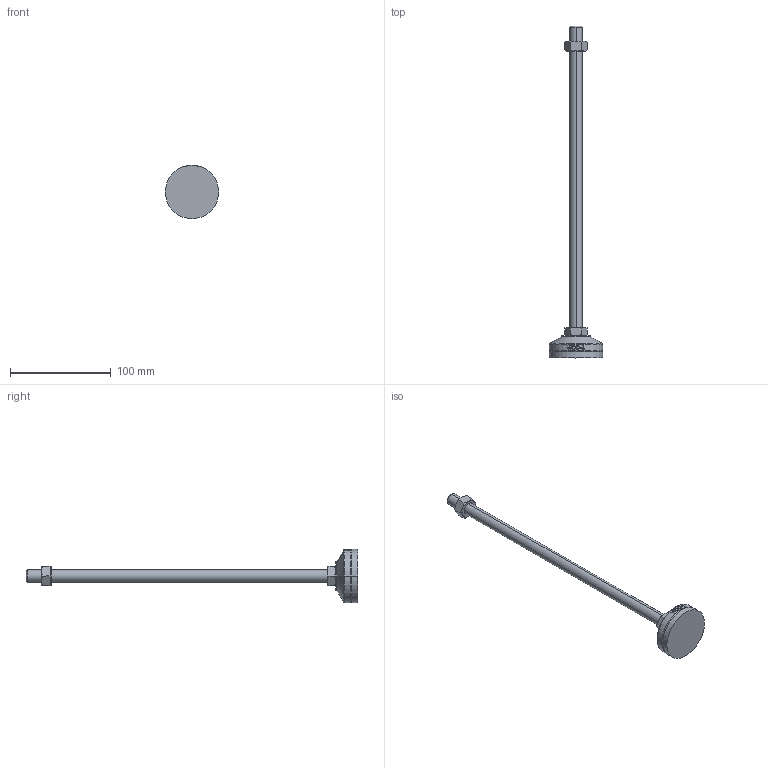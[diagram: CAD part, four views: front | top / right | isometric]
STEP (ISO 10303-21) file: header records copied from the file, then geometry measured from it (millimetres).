
FILE_DESCRIPTION (( 'STEP AP214' ), '1' );
FILE_NAME ('MFR53-M12-300.step', '2021-01-13T05:35:21', ( '' ), ( '' ), 'SwSTEP 2.0', 'SolidWorks 2019', '' );
FILE_SCHEMA (( 'AUTOMOTIVE_DESIGN' ));
Length unit declared in the file: millimetre
Products named in the file (2): MFR53-M12-300
Bounding box: 53 x 330 x 53 mm (x, y, z)
Volume: 79295.2 mm3; surface area: 25175 mm2
Topology: 4 solids, 4 shells, 103 faces, 235 edges, 150 vertices
Faces by surface type: plane 49, cylinder 18, bspline 16, cone 14, torus 6
Entity records: 4309 total; most frequent: CARTESIAN_POINT 2036, ORIENTED_EDGE 470, DIRECTION 417, EDGE_CURVE 235, AXIS2_PLACEMENT_3D 159, VERTEX_POINT 150, EDGE_LOOP 115, FACE_OUTER_BOUND 103
